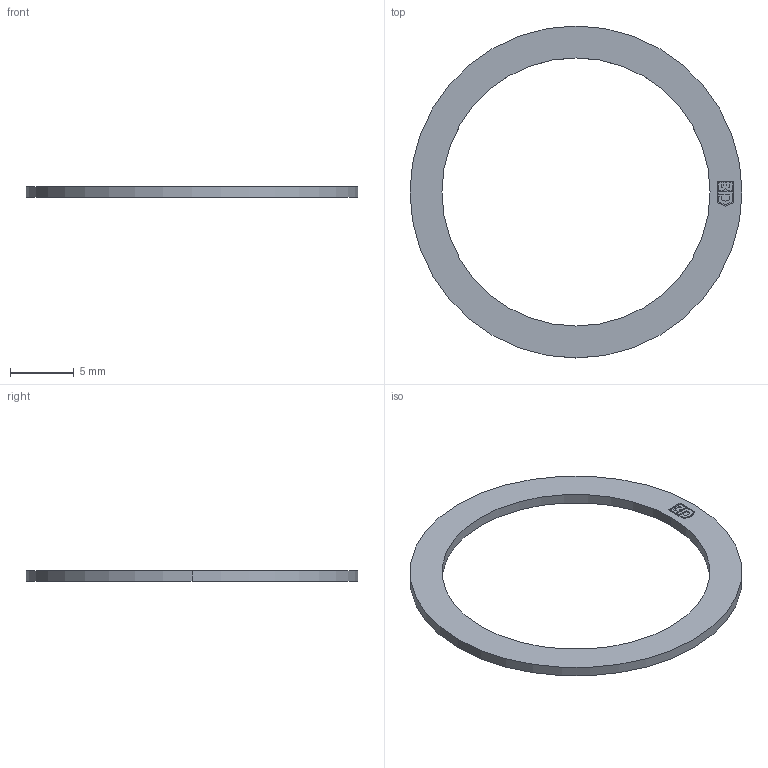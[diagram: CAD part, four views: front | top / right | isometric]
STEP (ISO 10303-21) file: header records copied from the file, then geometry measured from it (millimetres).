
FILE_DESCRIPTION (( 'STEP AP203' ), '1' );
FILE_NAME ('D 321-21.STEP', '2006-03-20T08:47:35', ( ' ' ), ( '' ), 'SwSTEP 2.0', 'SolidWorks 2005278', '' );
FILE_SCHEMA (( 'CONFIG_CONTROL_DESIGN' ));
Length unit declared in the file: millimetre
Products named in the file (1): D 321-21
Bounding box: 26 x 26 x 0.8 mm (x, y, z)
Volume: 147.5 mm3; surface area: 489 mm2
Topology: 1 solids, 1 shells, 43 faces, 114 edges, 76 vertices
Faces by surface type: plane 39, cylinder 4
Entity records: 1397 total; most frequent: CARTESIAN_POINT 234, ORIENTED_EDGE 228, DIRECTION 210, EDGE_CURVE 114, VECTOR 106, LINE 106, VERTEX_POINT 76, AXIS2_PLACEMENT_3D 52
